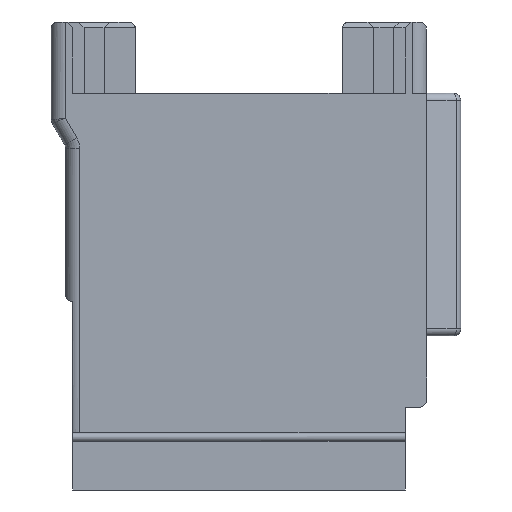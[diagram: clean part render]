
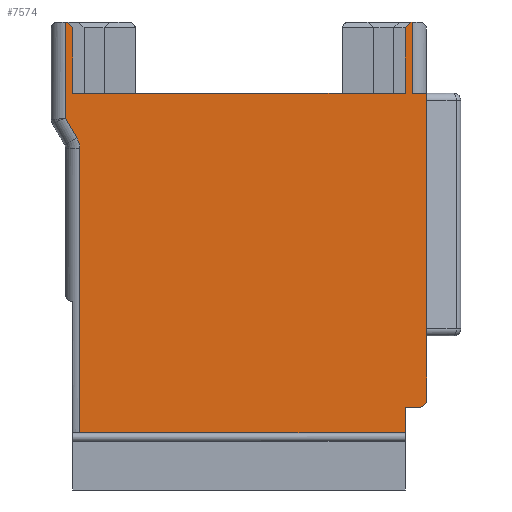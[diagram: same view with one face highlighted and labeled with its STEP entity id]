
A CAD part, front view. The second image highlights one B-rep face of the part: STEP entity #7574.
In plain terms, the highlighted planar face has unit normal (0, -1, 0).
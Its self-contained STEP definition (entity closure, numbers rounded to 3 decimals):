
#398=DIRECTION('',(-1.,0.,0.));
#399=VECTOR('',#398,23.3);
#400=CARTESIAN_POINT('',(11.65,-8.575,-5.));
#401=LINE('',#400,#399);
#506=DIRECTION('',(0.,0.,1.));
#507=VECTOR('',#506,5.);
#508=CARTESIAN_POINT('',(12.15,-8.575,-5.));
#509=LINE('',#508,#507);
#510=DIRECTION('',(1.,0.,0.));
#511=VECTOR('',#510,1.);
#512=CARTESIAN_POINT('',(12.15,-8.575,-5.));
#513=LINE('',#512,#511);
#514=DIRECTION('',(0.,0.,-1.));
#515=VECTOR('',#514,0.5);
#516=CARTESIAN_POINT('',(13.15,-8.575,-5.));
#517=LINE('',#516,#515);
#518=DIRECTION('',(0.,0.,-1.));
#519=VECTOR('',#518,16.);
#520=CARTESIAN_POINT('',(13.15,-8.575,-5.5));
#521=LINE('',#520,#519);
#522=CARTESIAN_POINT('',(12.65,-8.575,-26.5));
#523=DIRECTION('',(0.,-1.,0.));
#524=DIRECTION('',(0.,0.,-1.));
#525=AXIS2_PLACEMENT_3D('',#522,#523,#524);
#527=DIRECTION('',(-1.,0.,0.));
#528=VECTOR('',#527,1.);
#529=CARTESIAN_POINT('',(12.65,-8.575,-27.));
#530=LINE('',#529,#528);
#531=DIRECTION('',(0.,0.,1.));
#532=VECTOR('',#531,1.8);
#533=CARTESIAN_POINT('',(11.65,-8.575,-28.8));
#534=LINE('',#533,#532);
#535=DIRECTION('',(1.,0.,0.));
#536=VECTOR('',#535,22.8);
#537=CARTESIAN_POINT('',(-11.15,-8.575,-28.8));
#538=LINE('',#537,#536);
#539=DIRECTION('',(0.,0.,-1.));
#540=VECTOR('',#539,19.934);
#541=CARTESIAN_POINT('',(-11.15,-8.575,-8.866));
#542=LINE('',#541,#540);
#543=CARTESIAN_POINT('',(-12.65,-8.575,-8.866));
#544=DIRECTION('',(0.,-1.,0.));
#545=DIRECTION('',(1.,0.,0.));
#546=AXIS2_PLACEMENT_3D('',#543,#544,#545);
#548=DIRECTION('',(0.5,0.,-0.866));
#549=VECTOR('',#548,1.598);
#550=CARTESIAN_POINT('',(-12.15,-8.575,-6.732));
#551=LINE('',#550,#549);
#552=DIRECTION('',(0.,0.,-1.));
#553=VECTOR('',#552,6.732);
#554=CARTESIAN_POINT('',(-12.15,-8.575,0.));
#555=LINE('',#554,#553);
#556=DIRECTION('',(1.,0.,0.));
#557=VECTOR('',#556,0.1);
#558=CARTESIAN_POINT('',(-12.15,-8.575,0.));
#559=LINE('',#558,#557);
#560=DIRECTION('',(-0.707,0.,0.707));
#561=VECTOR('',#560,0.566);
#562=CARTESIAN_POINT('',(-11.65,-8.575,-0.4));
#563=LINE('',#562,#561);
#564=DIRECTION('',(0.,0.,-1.));
#565=VECTOR('',#564,4.6);
#566=CARTESIAN_POINT('',(-11.65,-8.575,-0.4));
#567=LINE('',#566,#565);
#568=DIRECTION('',(0.,0.,-1.));
#569=VECTOR('',#568,4.6);
#570=CARTESIAN_POINT('',(11.65,-8.575,-0.4));
#571=LINE('',#570,#569);
#572=DIRECTION('',(-0.707,0.,-0.707));
#573=VECTOR('',#572,0.566);
#574=CARTESIAN_POINT('',(12.05,-8.575,0.));
#575=LINE('',#574,#573);
#576=DIRECTION('',(1.,0.,0.));
#577=VECTOR('',#576,0.1);
#578=CARTESIAN_POINT('',(12.05,-8.575,0.));
#579=LINE('',#578,#577);
#4848=DIRECTION('',(0.,0.,1.));
#4849=VECTOR('',#4848,5.);
#4850=CARTESIAN_POINT('',(13.15,-8.575,-26.5));
#4851=LINE('',#4850,#4849);
#5437=CARTESIAN_POINT('',(-11.65,-8.575,-0.4));
#5438=CARTESIAN_POINT('',(-11.65,-8.575,-5.));
#5439=VERTEX_POINT('',#5437);
#5440=VERTEX_POINT('',#5438);
#5443=CARTESIAN_POINT('',(-12.05,-8.575,0.));
#5444=VERTEX_POINT('',#5443);
#6257=CARTESIAN_POINT('',(11.65,-8.575,-27.));
#6259=VERTEX_POINT('',#6257);
#6277=CARTESIAN_POINT('',(11.65,-8.575,-28.8));
#6279=VERTEX_POINT('',#6277);
#6285=CARTESIAN_POINT('',(11.65,-8.575,-0.4));
#6286=CARTESIAN_POINT('',(11.65,-8.575,-5.));
#6287=VERTEX_POINT('',#6285);
#6288=VERTEX_POINT('',#6286);
#6289=CARTESIAN_POINT('',(12.05,-8.575,0.));
#6290=VERTEX_POINT('',#6289);
#6809=CARTESIAN_POINT('',(12.15,-8.575,0.));
#6811=VERTEX_POINT('',#6809);
#6817=CARTESIAN_POINT('',(12.15,-8.575,-5.));
#6818=VERTEX_POINT('',#6817);
#6819=CARTESIAN_POINT('',(13.15,-8.575,-5.));
#6820=VERTEX_POINT('',#6819);
#6821=CARTESIAN_POINT('',(13.15,-8.575,
-5.5));
#6822=CARTESIAN_POINT('',(13.15,-8.575,
-21.5));
#6823=VERTEX_POINT('',#6821);
#6824=VERTEX_POINT('',#6822);
#6846=CARTESIAN_POINT('',(-12.15,-8.575,0.));
#6848=VERTEX_POINT('',#6846);
#6849=CARTESIAN_POINT('',(-12.15,-8.575,-6.732));
#6850=VERTEX_POINT('',#6849);
#6898=CARTESIAN_POINT('',(-11.15,-8.575,-8.866));
#6899=CARTESIAN_POINT('',(-11.15,-8.575,-28.8));
#6900=VERTEX_POINT('',#6898);
#6901=VERTEX_POINT('',#6899);
#6902=CARTESIAN_POINT('',(-11.351,-8.575,-8.116));
#6903=VERTEX_POINT('',#6902);
#6993=CARTESIAN_POINT('',(12.65,-8.575,-27.));
#6994=VERTEX_POINT('',#6993);
#6995=CARTESIAN_POINT('',(13.15,-8.575,-26.5));
#6996=VERTEX_POINT('',#6995);
#7529=CARTESIAN_POINT('',(0.,-8.575,0.));
#7530=DIRECTION('',(0.,1.,0.));
#7531=DIRECTION('',(1.,0.,0.));
#7532=AXIS2_PLACEMENT_3D('',#7529,#7530,#7531);
#7533=PLANE('',#7532);
#7535=ORIENTED_EDGE('',*,*,#7534,.F.);
#7537=ORIENTED_EDGE('',*,*,#7536,.T.);
#7539=ORIENTED_EDGE('',*,*,#7538,.T.);
#7541=ORIENTED_EDGE('',*,*,#7540,.T.);
#7543=ORIENTED_EDGE('',*,*,#7542,.F.);
#7545=ORIENTED_EDGE('',*,*,#7544,.F.);
#7547=ORIENTED_EDGE('',*,*,#7546,.T.);
#7549=ORIENTED_EDGE('',*,*,#7548,.F.);
#7551=ORIENTED_EDGE('',*,*,#7550,.F.);
#7553=ORIENTED_EDGE('',*,*,#7552,.F.);
#7555=ORIENTED_EDGE('',*,*,#7554,.T.);
#7557=ORIENTED_EDGE('',*,*,#7556,.F.);
#7559=ORIENTED_EDGE('',*,*,#7558,.F.);
#7561=ORIENTED_EDGE('',*,*,#7560,.T.);
#7563=ORIENTED_EDGE('',*,*,#7562,.F.);
#7564=ORIENTED_EDGE('',*,*,#7503,.T.);
#7565=ORIENTED_EDGE('',*,*,#7392,.F.);
#7567=ORIENTED_EDGE('',*,*,#7566,.F.);
#7569=ORIENTED_EDGE('',*,*,#7568,.F.);
#7571=ORIENTED_EDGE('',*,*,#7570,.T.);
#7572=EDGE_LOOP('',(#7535,#7537,#7539,#7541,#7543,#7545,#7547,#7549,#7551,#7553,
#7555,#7557,#7559,#7561,#7563,#7564,#7565,#7567,#7569,#7571));
#7573=FACE_OUTER_BOUND('',#7572,.F.);
#7574=ADVANCED_FACE('',(#7573),#7533,.F.);
#526=CIRCLE('',#525,0.5);
#547=CIRCLE('',#546,1.5);
#7392=EDGE_CURVE('',#6288,#5440,#401,.T.);
#7503=EDGE_CURVE('',#5439,#5440,#567,.T.);
#7534=EDGE_CURVE('',#6818,#6811,#509,.T.);
#7536=EDGE_CURVE('',#6818,#6820,#513,.T.);
#7538=EDGE_CURVE('',#6820,#6823,#517,.T.);
#7540=EDGE_CURVE('',#6823,#6824,#521,.T.);
#7542=EDGE_CURVE('',#6996,#6824,#4851,.T.);
#7544=EDGE_CURVE('',#6994,#6996,#526,.T.);
#7546=EDGE_CURVE('',#6994,#6259,#530,.T.);
#7548=EDGE_CURVE('',#6279,#6259,#534,.T.);
#7550=EDGE_CURVE('',#6901,#6279,#538,.T.);
#7552=EDGE_CURVE('',#6900,#6901,#542,.T.);
#7554=EDGE_CURVE('',#6900,#6903,#547,.T.);
#7556=EDGE_CURVE('',#6850,#6903,#551,.T.);
#7558=EDGE_CURVE('',#6848,#6850,#555,.T.);
#7560=EDGE_CURVE('',#6848,#5444,#559,.T.);
#7562=EDGE_CURVE('',#5439,#5444,#563,.T.);
#7566=EDGE_CURVE('',#6287,#6288,#571,.T.);
#7568=EDGE_CURVE('',#6290,#6287,#575,.T.);
#7570=EDGE_CURVE('',#6290,#6811,#579,.T.);
